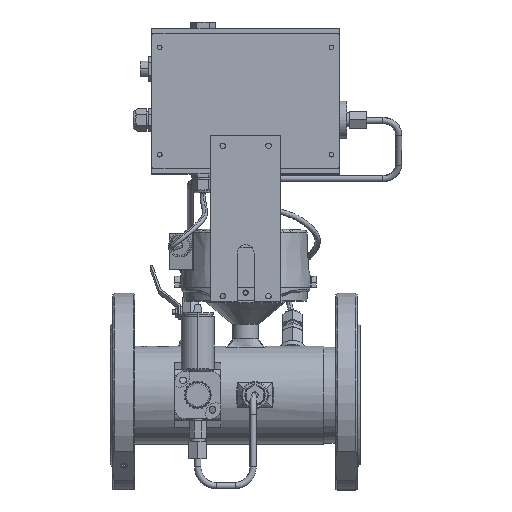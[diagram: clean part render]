
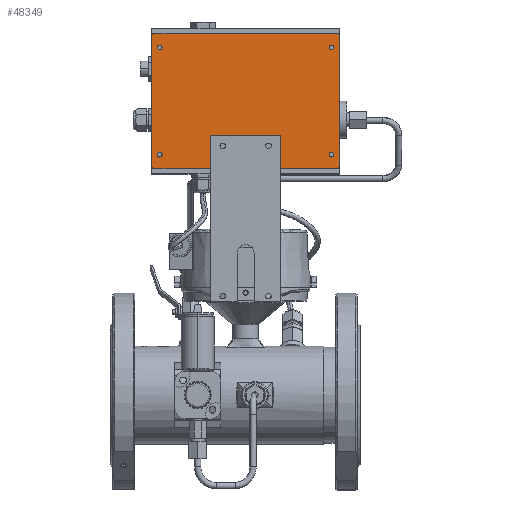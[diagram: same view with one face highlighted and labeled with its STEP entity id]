
A CAD part, top view. The second image highlights one B-rep face of the part: STEP entity #48349.
In plain terms, the highlighted planar face has unit normal (0, 0, 1) as drawn and (0, 0, -1) by its records, which use the part's own axes.
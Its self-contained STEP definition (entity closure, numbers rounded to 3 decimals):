
#47758=CARTESIAN_POINT('',(-82.5,51.5,0.));
#47759=DIRECTION('',(0.,0.,-1.));
#47760=DIRECTION('',(1.,0.,0.));
#47761=AXIS2_PLACEMENT_3D('',#47758,#47759,#47760);
#47766=CARTESIAN_POINT('',(-82.5,51.5,0.));
#47767=DIRECTION('',(0.,0.,-1.));
#47768=DIRECTION('',(-1.,0.,0.));
#47769=AXIS2_PLACEMENT_3D('',#47766,#47767,#47768);
#47774=CARTESIAN_POINT('',(82.5,51.5,0.));
#47775=DIRECTION('',(0.,0.,-1.));
#47776=DIRECTION('',(1.,0.,0.));
#47777=AXIS2_PLACEMENT_3D('',#47774,#47775,#47776);
#47782=CARTESIAN_POINT('',(82.5,51.5,0.));
#47783=DIRECTION('',(0.,0.,-1.));
#47784=DIRECTION('',(-1.,0.,0.));
#47785=AXIS2_PLACEMENT_3D('',#47782,#47783,#47784);
#47790=CARTESIAN_POINT('',(82.5,-51.5,0.));
#47791=DIRECTION('',(0.,0.,-1.));
#47792=DIRECTION('',(1.,0.,0.));
#47793=AXIS2_PLACEMENT_3D('',#47790,#47791,#47792);
#47798=CARTESIAN_POINT('',(82.5,-51.5,0.));
#47799=DIRECTION('',(0.,0.,-1.));
#47800=DIRECTION('',(-1.,0.,0.));
#47801=AXIS2_PLACEMENT_3D('',#47798,#47799,#47800);
#47806=CARTESIAN_POINT('',(-82.5,-51.5,0.));
#47807=DIRECTION('',(0.,0.,-1.));
#47808=DIRECTION('',(1.,0.,0.));
#47809=AXIS2_PLACEMENT_3D('',#47806,#47807,#47808);
#47814=CARTESIAN_POINT('',(-82.5,-51.5,0.));
#47815=DIRECTION('',(0.,0.,-1.));
#47816=DIRECTION('',(-1.,0.,0.));
#47817=AXIS2_PLACEMENT_3D('',#47814,#47815,#47816);
#47822=CARTESIAN_POINT('',(-88.,63.,0.));
#47823=DIRECTION('',(0.,0.,1.));
#47824=DIRECTION('',(0.,1.,0.));
#47825=AXIS2_PLACEMENT_3D('',#47822,#47823,#47824);
#47830=DIRECTION('',(0.,-1.,0.));
#47831=VECTOR('',#47830,126.);
#47832=CARTESIAN_POINT('',(-90.,63.,0.));
#47833=LINE('',#47832,#47831);
#47837=CARTESIAN_POINT('',(-88.,-63.,0.));
#47838=DIRECTION('',(0.,0.,1.));
#47839=DIRECTION('',(-1.,0.,0.));
#47840=AXIS2_PLACEMENT_3D('',#47837,#47838,#47839);
#47845=DIRECTION('',(1.,0.,0.));
#47846=VECTOR('',#47845,176.);
#47847=CARTESIAN_POINT('',(-88.,-65.,0.));
#47848=LINE('',#47847,#47846);
#47852=CARTESIAN_POINT('',(88.,-63.,0.));
#47853=DIRECTION('',(0.,0.,1.));
#47854=DIRECTION('',(0.,-1.,0.));
#47855=AXIS2_PLACEMENT_3D('',#47852,#47853,#47854);
#47860=DIRECTION('',(0.,1.,0.));
#47861=VECTOR('',#47860,126.);
#47862=CARTESIAN_POINT('',(90.,-63.,0.));
#47863=LINE('',#47862,#47861);
#47867=CARTESIAN_POINT('',(88.,63.,0.));
#47868=DIRECTION('',(0.,0.,1.));
#47869=DIRECTION('',(1.,0.,0.));
#47870=AXIS2_PLACEMENT_3D('',#47867,#47868,#47869);
#47875=DIRECTION('',(-1.,0.,0.));
#47876=VECTOR('',#47875,176.);
#47877=CARTESIAN_POINT('',(88.,65.,0.));
#47878=LINE('',#47877,#47876);
#47882=CARTESIAN_POINT('',(-22.,-43.,0.));
#47883=DIRECTION('',(0.,0.,-1.));
#47884=DIRECTION('',(1.,0.,0.));
#47885=AXIS2_PLACEMENT_3D('',#47882,#47883,#47884);
#47890=CARTESIAN_POINT('',(-22.,-43.,0.));
#47891=DIRECTION('',(0.,0.,-1.));
#47892=DIRECTION('',(-1.,0.,0.));
#47893=AXIS2_PLACEMENT_3D('',#47890,#47891,#47892);
#47898=CARTESIAN_POINT('',(22.,-43.,0.));
#47899=DIRECTION('',(0.,0.,-1.));
#47900=DIRECTION('',(1.,0.,0.));
#47901=AXIS2_PLACEMENT_3D('',#47898,#47899,#47900);
#47906=CARTESIAN_POINT('',(22.,-43.,0.));
#47907=DIRECTION('',(0.,0.,-1.));
#47908=DIRECTION('',(-1.,0.,0.));
#47909=AXIS2_PLACEMENT_3D('',#47906,#47907,#47908);
#48210=CARTESIAN_POINT('',(-80.25,51.5,0.));
#48211=CARTESIAN_POINT('',(-84.75,51.5,0.));
#48212=VERTEX_POINT('',#48210);
#48213=VERTEX_POINT('',#48211);
#48214=CARTESIAN_POINT('',(84.75,51.5,0.));
#48215=CARTESIAN_POINT('',(80.25,51.5,0.));
#48216=VERTEX_POINT('',#48214);
#48217=VERTEX_POINT('',#48215);
#48218=CARTESIAN_POINT('',(84.75,-51.5,0.));
#48219=CARTESIAN_POINT('',(80.25,-51.5,0.));
#48220=VERTEX_POINT('',#48218);
#48221=VERTEX_POINT('',#48219);
#48222=CARTESIAN_POINT('',(-80.25,-51.5,0.));
#48223=CARTESIAN_POINT('',(-84.75,-51.5,0.));
#48224=VERTEX_POINT('',#48222);
#48225=VERTEX_POINT('',#48223);
#48226=CARTESIAN_POINT('',(-90.,63.,0.));
#48227=CARTESIAN_POINT('',(-90.,-63.,0.));
#48228=VERTEX_POINT('',#48226);
#48229=VERTEX_POINT('',#48227);
#48230=CARTESIAN_POINT('',(-88.,-65.,0.));
#48231=CARTESIAN_POINT('',(88.,-65.,0.));
#48232=VERTEX_POINT('',#48230);
#48233=VERTEX_POINT('',#48231);
#48234=CARTESIAN_POINT('',(90.,-63.,0.));
#48235=CARTESIAN_POINT('',(90.,63.,0.));
#48236=VERTEX_POINT('',#48234);
#48237=VERTEX_POINT('',#48235);
#48238=CARTESIAN_POINT('',(88.,65.,0.));
#48239=CARTESIAN_POINT('',(-88.,65.,0.));
#48240=VERTEX_POINT('',#48238);
#48241=VERTEX_POINT('',#48239);
#48278=CARTESIAN_POINT('',(-19.25,-43.,0.));
#48279=CARTESIAN_POINT('',(-24.75,-43.,0.));
#48280=VERTEX_POINT('',#48278);
#48281=VERTEX_POINT('',#48279);
#48286=CARTESIAN_POINT('',(24.75,-43.,0.));
#48287=CARTESIAN_POINT('',(19.25,-43.,0.));
#48288=VERTEX_POINT('',#48286);
#48289=VERTEX_POINT('',#48287);
#48290=CARTESIAN_POINT('',(0.,0.,0.));
#48291=DIRECTION('',(0.,0.,1.));
#48292=DIRECTION('',(1.,0.,0.));
#48293=AXIS2_PLACEMENT_3D('',#48290,#48291,#48292);
#48294=PLANE('',#48293);
#48296=ORIENTED_EDGE('',*,*,#48295,.T.);
#48298=ORIENTED_EDGE('',*,*,#48297,.T.);
#48300=ORIENTED_EDGE('',*,*,#48299,.T.);
#48302=ORIENTED_EDGE('',*,*,#48301,.T.);
#48304=ORIENTED_EDGE('',*,*,#48303,.T.);
#48306=ORIENTED_EDGE('',*,*,#48305,.T.);
#48308=ORIENTED_EDGE('',*,*,#48307,.T.);
#48310=ORIENTED_EDGE('',*,*,#48309,.T.);
#48311=EDGE_LOOP('',(#48296,#48298,#48300,#48302,#48304,#48306,#48308,#48310));
#48312=FACE_OUTER_BOUND('',#48311,.F.);
#48314=ORIENTED_EDGE('',*,*,#48313,.T.);
#48316=ORIENTED_EDGE('',*,*,#48315,.T.);
#48317=EDGE_LOOP('',(#48314,#48316));
#48318=FACE_BOUND('',#48317,.F.);
#48320=ORIENTED_EDGE('',*,*,#48319,.T.);
#48322=ORIENTED_EDGE('',*,*,#48321,.T.);
#48323=EDGE_LOOP('',(#48320,#48322));
#48324=FACE_BOUND('',#48323,.F.);
#48326=ORIENTED_EDGE('',*,*,#48325,.T.);
#48328=ORIENTED_EDGE('',*,*,#48327,.T.);
#48329=EDGE_LOOP('',(#48326,#48328));
#48330=FACE_BOUND('',#48329,.F.);
#48332=ORIENTED_EDGE('',*,*,#48331,.T.);
#48334=ORIENTED_EDGE('',*,*,#48333,.T.);
#48335=EDGE_LOOP('',(#48332,#48334));
#48336=FACE_BOUND('',#48335,.F.);
#48338=ORIENTED_EDGE('',*,*,#48337,.T.);
#48340=ORIENTED_EDGE('',*,*,#48339,.T.);
#48341=EDGE_LOOP('',(#48338,#48340));
#48342=FACE_BOUND('',#48341,.F.);
#48344=ORIENTED_EDGE('',*,*,#48343,.T.);
#48346=ORIENTED_EDGE('',*,*,#48345,.T.);
#48347=EDGE_LOOP('',(#48344,#48346));
#48348=FACE_BOUND('',#48347,.F.);
#47762=CIRCLE('',#47761,2.25);
#47770=CIRCLE('',#47769,2.25);
#47778=CIRCLE('',#47777,2.25);
#47786=CIRCLE('',#47785,2.25);
#47794=CIRCLE('',#47793,2.25);
#47802=CIRCLE('',#47801,2.25);
#47810=CIRCLE('',#47809,2.25);
#47818=CIRCLE('',#47817,2.25);
#47826=CIRCLE('',#47825,2.);
#47841=CIRCLE('',#47840,2.);
#47856=CIRCLE('',#47855,2.);
#47871=CIRCLE('',#47870,2.);
#47886=CIRCLE('',#47885,2.75);
#47894=CIRCLE('',#47893,2.75);
#47902=CIRCLE('',#47901,2.75);
#47910=CIRCLE('',#47909,2.75);
#48295=EDGE_CURVE('',#48241,#48228,#47826,.T.);
#48297=EDGE_CURVE('',#48228,#48229,#47833,.T.);
#48299=EDGE_CURVE('',#48229,#48232,#47841,.T.);
#48301=EDGE_CURVE('',#48232,#48233,#47848,.T.);
#48303=EDGE_CURVE('',#48233,#48236,#47856,.T.);
#48305=EDGE_CURVE('',#48236,#48237,#47863,.T.);
#48307=EDGE_CURVE('',#48237,#48240,#47871,.T.);
#48309=EDGE_CURVE('',#48240,#48241,#47878,.T.);
#48313=EDGE_CURVE('',#48216,#48217,#47778,.T.);
#48315=EDGE_CURVE('',#48217,#48216,#47786,.T.);
#48319=EDGE_CURVE('',#48220,#48221,#47794,.T.);
#48321=EDGE_CURVE('',#48221,#48220,#47802,.T.);
#48325=EDGE_CURVE('',#48224,#48225,#47810,.T.);
#48327=EDGE_CURVE('',#48225,#48224,#47818,.T.);
#48331=EDGE_CURVE('',#48212,#48213,#47762,.T.);
#48333=EDGE_CURVE('',#48213,#48212,#47770,.T.);
#48337=EDGE_CURVE('',#48280,#48281,#47886,.T.);
#48339=EDGE_CURVE('',#48281,#48280,#47894,.T.);
#48343=EDGE_CURVE('',#48288,#48289,#47902,.T.);
#48345=EDGE_CURVE('',#48289,#48288,#47910,.T.);
#48349=ADVANCED_FACE('',(#48312,#48318,#48324,#48330,#48336,#48342,#48348),
#48294,.F.);
